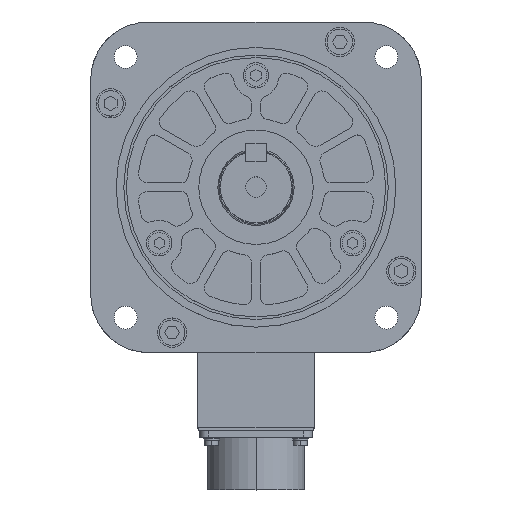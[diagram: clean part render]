
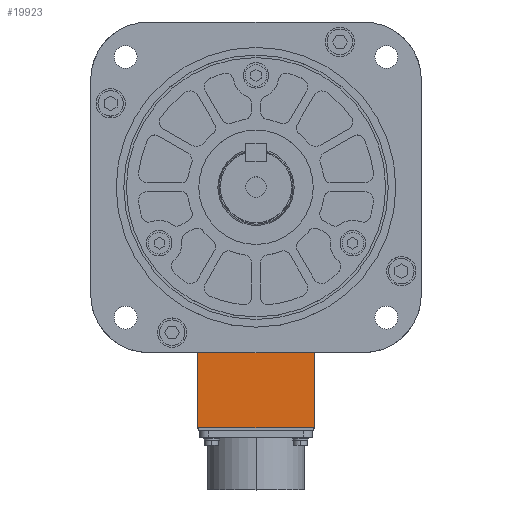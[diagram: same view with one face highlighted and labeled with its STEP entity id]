
A CAD part, top view. The second image highlights one B-rep face of the part: STEP entity #19923.
In plain terms, the highlighted planar face has unit normal (0, 0, 1).
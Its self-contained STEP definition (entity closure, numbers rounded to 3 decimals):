
#3402 = CARTESIAN_POINT ( 'NONE',  ( -23., -64.5, -90. ) ) ;
#3481 = CARTESIAN_POINT ( 'NONE',  ( 23., -64.5, -90. ) ) ;
#3482 = DIRECTION ( 'NONE',  ( -1., 0., 0. ) ) ;
#3483 = VECTOR ( 'NONE', #3482, 1000. ) ;
#3484 = CARTESIAN_POINT ( 'NONE',  ( 23., -64.5, -90. ) ) ;
#3485 = LINE ( 'NONE', #3484, #3483 ) ;
#6795 = CARTESIAN_POINT ( 'NONE',  ( -23., -94.47, -90. ) ) ;
#6796 = DIRECTION ( 'NONE',  ( -1., 0., 0. ) ) ;
#6797 = VECTOR ( 'NONE', #6796, 1000. ) ;
#6798 = CARTESIAN_POINT ( 'NONE',  ( 23., -94.47, -90. ) ) ;
#6799 = LINE ( 'NONE', #6798, #6797 ) ;
#6800 = DIRECTION ( 'NONE',  ( 0., 1., 0. ) ) ;
#6801 = VECTOR ( 'NONE', #6800, 1000. ) ;
#6803 = CARTESIAN_POINT ( 'NONE',  ( 23., -65.5, -90. ) ) ;
#6804 = LINE ( 'NONE', #6803, #6801 ) ;
#6875 = CARTESIAN_POINT ( 'NONE',  ( 23., -94.47, -90. ) ) ;
#19923 = ADVANCED_FACE ( 'NONE', ( #34639 ), #34637, .F. ) ;
#19924 = EDGE_LOOP ( 'NONE', ( #19925, #19926, #19928, #19929 ) ) ;
#19925 = ORIENTED_EDGE ( 'NONE', *, *, #22104, .T. ) ;
#19926 = ORIENTED_EDGE ( 'NONE', *, *, #19927, .F. ) ;
#19927 = EDGE_CURVE ( 'NONE', #27836, #22047, #37210, .T. ) ;
#19928 = ORIENTED_EDGE ( 'NONE', *, *, #27835, .F. ) ;
#19929 = ORIENTED_EDGE ( 'NONE', *, *, #27832, .T. ) ;
#22047 = VERTEX_POINT ( 'NONE', #3402 ) ;
#22104 = EDGE_CURVE ( 'NONE', #22105, #22047, #3485, .T. ) ;
#22105 = VERTEX_POINT ( 'NONE', #3481 ) ;
#27832 = EDGE_CURVE ( 'NONE', #27885, #22105, #6804, .T. ) ;
#27835 = EDGE_CURVE ( 'NONE', #27885, #27836, #6799, .T. ) ;
#27836 = VERTEX_POINT ( 'NONE', #6795 ) ;
#27885 = VERTEX_POINT ( 'NONE', #6875 ) ;
#34632 = DIRECTION ( 'NONE',  ( -1., 0., 0. ) ) ;
#34633 = DIRECTION ( 'NONE',  ( 0., 0., -1. ) ) ;
#34634 = CARTESIAN_POINT ( 'NONE',  ( 23., -65.5, -90. ) ) ;
#34635 = AXIS2_PLACEMENT_3D ( 'NONE', #34634, #34633, #34632 ) ;
#34637 = PLANE ( 'NONE',  #34635 ) ;
#34639 = FACE_OUTER_BOUND ( 'NONE', #19924, .T. ) ;
#37207 = DIRECTION ( 'NONE',  ( 0., 1., 0. ) ) ;
#37208 = VECTOR ( 'NONE', #37207, 1000. ) ;
#37209 = CARTESIAN_POINT ( 'NONE',  ( -23., -65.5, -90. ) ) ;
#37210 = LINE ( 'NONE', #37209, #37208 ) ;
